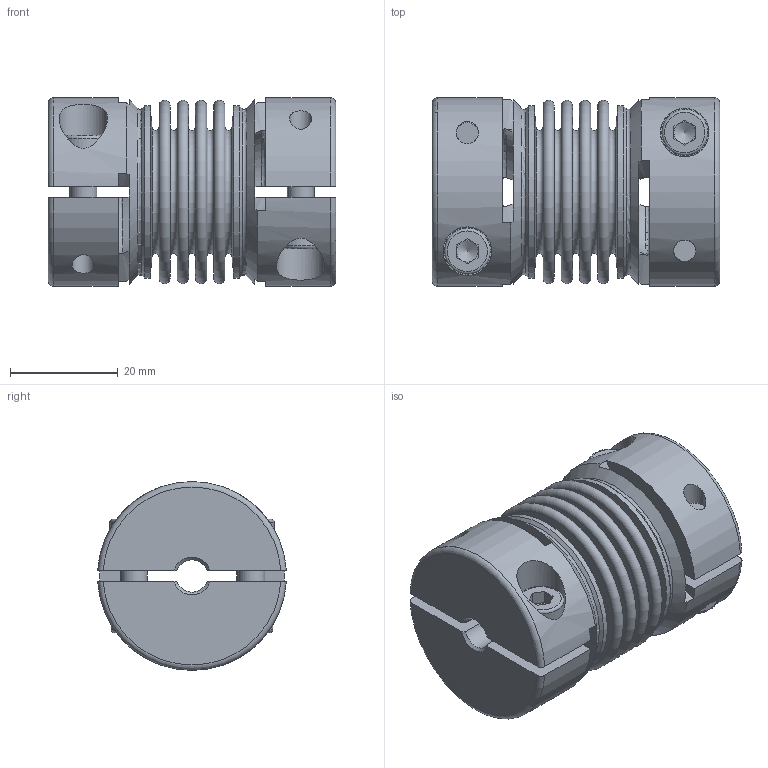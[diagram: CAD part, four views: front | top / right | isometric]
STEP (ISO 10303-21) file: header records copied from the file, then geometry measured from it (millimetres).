
FILE_DESCRIPTION(/* description */ ('Unknown','CAx-IF Rec.Pracs.---Representation and Presentation of Product Manufacturing Information (PMI)---4.0---2014-10-13','CAx-IF Rec.Pracs.---3D Tessellated Geometry---0.4---2014-09-14','2;1'),/* implementation_level */ '2;1');
FILE_NAME(/* name */ 'KG-HS 10 - 4W',/* time_stamp */ '2022-11-25T11:34:45+01:00',/* author */ ('Unknown'),/* organization */ ('Unknown'),/* preprocessor_version */ 'ST-DEVELOPER v18.102',/* originating_system */ 'Solid Edge',/* authorisation */ 'Unknown');
FILE_SCHEMA (('AP242_MANAGED_MODEL_BASED_3D_ENGINEERING_MIM_LF { 1 0 10303 442 1 1 4 }'));
Length unit declared in the file: millimetre
Products named in the file (1): 04824487
Bounding box: 53.32 x 34.94 x 35 mm (x, y, z)
Volume: 27525.1 mm3; surface area: 24019.6 mm2
Topology: 1 solids, 1 shells, 222 faces, 541 edges, 351 vertices
Faces by surface type: plane 126, cylinder 40, torus 34, cone 22
Full cylindrical faces by diameter (mm): 4.134 x4, 5 x4, 5.4 x2, 8.5 x4, 9 x4, 31.2 x2, 32 x2
Entity records: 8146 total; most frequent: CARTESIAN_POINT 1688, DIRECTION 1028, ORIENTED_EDGE 912, EDGE_CURVE 456, AXIS2_PLACEMENT_3D 426, VERTEX_POINT 330, FACE_BOUND 326, EDGE_LOOP 322
